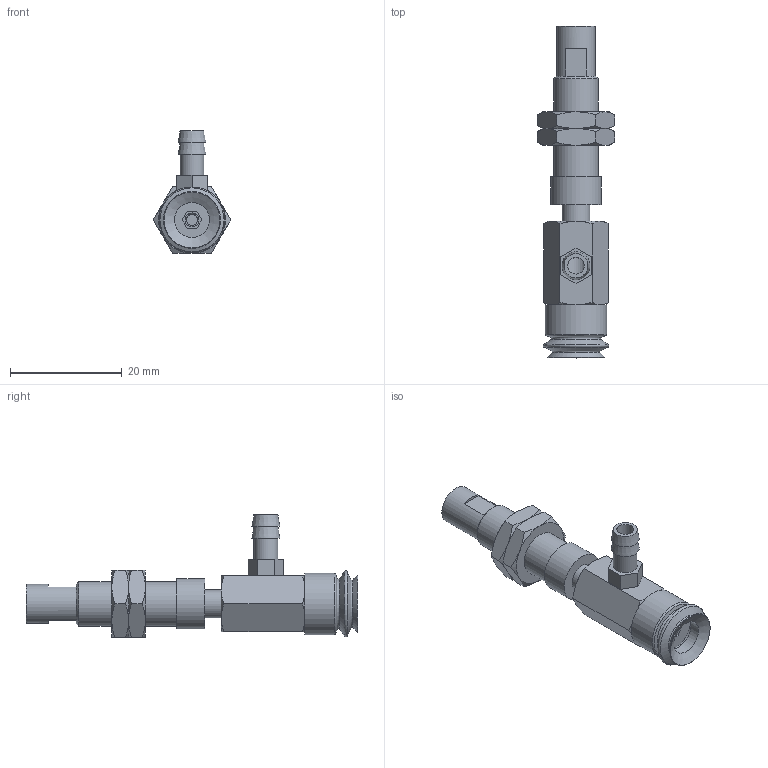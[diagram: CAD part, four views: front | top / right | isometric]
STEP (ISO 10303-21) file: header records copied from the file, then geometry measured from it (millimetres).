
FILE_DESCRIPTION(('STEP AP203'),'1');
FILE_NAME('-T.stp','2025-04-24T00:33:55',(' '),(' '),'Spatial InterOp 3D',' ',' ');
FILE_SCHEMA(('CONFIG_CONTROL_DESIGN'));
Length unit declared in the file: millimetre
Products named in the file (8): BNABPJYS-10-3-※-T; Adapter-10-NAPJ; CONNECTOR_S-10-3; NUT-NAPJ-10-3-s; NAPJTS-10-3-FBODY; NAPJTS-10-3-MBODY; BPJG-10-※; T
Assembly tree (8 placements, depth 2):
  BNABPJYS-10-3-※-T
    Adapter-10-NAPJ
    CONNECTOR_S-10-3
    NUT-NAPJ-10-3-s  x2
    NAPJTS-10-3-FBODY
    NAPJTS-10-3-MBODY
    BPJG-10-※
    T
Bounding box: 13.86 x 59.5 x 22 mm (x, y, z)
Volume: 3997.5 mm3; surface area: 5041 mm2
Topology: 8 solids, 8 shells, 154 faces, 322 edges, 197 vertices
Faces by surface type: plane 69, cone 56, cylinder 22, torus 7
Full cylindrical faces by diameter (mm): 2 x1, 2.5 x1, 3 x1, 4.134 x3, 4.3 x1, 4.6 x1, 5 x5, 6.266 x1, 7 x1, 7.188 x2, 7.8 x1, 8 x2, 9 x1, 11 x1
Entity records: 3768 total; most frequent: CARTESIAN_POINT 806, DIRECTION 546, ORIENTED_EDGE 436, AXIS2_PLACEMENT_3D 236, EDGE_CURVE 218, EDGE_LOOP 204, VERTEX_POINT 160, FACE_OUTER_BOUND 159
